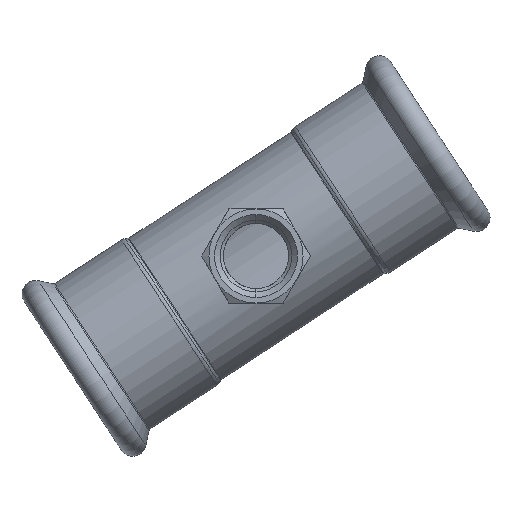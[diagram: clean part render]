
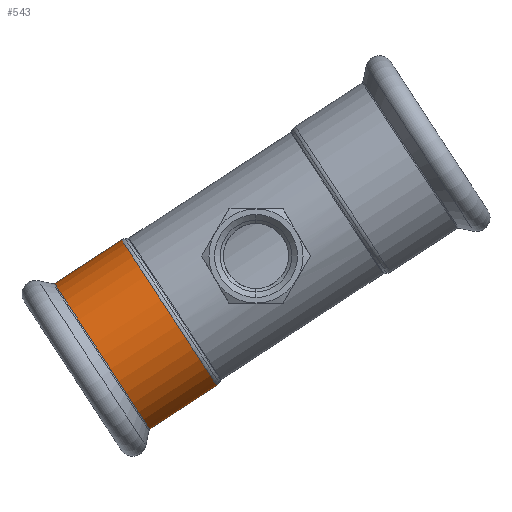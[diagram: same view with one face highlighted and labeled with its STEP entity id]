
A CAD part, front view. The second image highlights one B-rep face of the part: STEP entity #543.
In plain terms, the highlighted cylindrical face has radius 22.65 mm (diameter 45.3 mm), a partial arc.
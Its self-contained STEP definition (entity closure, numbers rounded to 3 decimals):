
#3 = CYLINDRICAL_SURFACE ( 'NONE', #1850, 22.65 ) ;
#135 = CIRCLE ( 'NONE', #3113, 22.65 ) ;
#166 = ORIENTED_EDGE ( 'NONE', *, *, #4051, .T. ) ;
#543 = ADVANCED_FACE ( 'NONE', ( #3183 ), #3, .T. ) ;
#560 = DIRECTION ( 'NONE',  ( 0., 0., 1. ) ) ;
#564 = EDGE_LOOP ( 'NONE', ( #776, #166, #3544, #1015 ) ) ;
#591 = DIRECTION ( 'NONE',  ( -1., 0., 0. ) ) ;
#658 = EDGE_CURVE ( 'NONE', #3838, #1533, #3341, .T. ) ;
#754 = DIRECTION ( 'NONE',  ( 0., 0., 1. ) ) ;
#776 = ORIENTED_EDGE ( 'NONE', *, *, #1469, .T. ) ;
#780 = VECTOR ( 'NONE', #865, 1000. ) ;
#826 = CARTESIAN_POINT ( 'NONE',  ( 27.146, 0., 22.65 ) ) ;
#865 = DIRECTION ( 'NONE',  ( -1., 0., 0. ) ) ;
#923 = CARTESIAN_POINT ( 'NONE',  ( 27., 0., -22.65 ) ) ;
#1015 = ORIENTED_EDGE ( 'NONE', *, *, #658, .F. ) ;
#1361 = DIRECTION ( 'NONE',  ( 0., 0., 1. ) ) ;
#1457 = DIRECTION ( 'NONE',  ( -1., 0., 0. ) ) ;
#1469 = EDGE_CURVE ( 'NONE', #3838, #4099, #2432, .T. ) ;
#1533 = VERTEX_POINT ( 'NONE', #3176 ) ;
#1669 = DIRECTION ( 'NONE',  ( -1., 0., 0. ) ) ;
#1671 = CARTESIAN_POINT ( 'NONE',  ( 47.843, 0., 0. ) ) ;
#1763 = LINE ( 'NONE', #3765, #780 ) ;
#1850 = AXIS2_PLACEMENT_3D ( 'NONE', #3279, #1669, #1361 ) ;
#1980 = VECTOR ( 'NONE', #1457, 1000. ) ;
#2259 = VERTEX_POINT ( 'NONE', #923 ) ;
#2432 = CIRCLE ( 'NONE', #2812, 22.65 ) ;
#2625 = DIRECTION ( 'NONE',  ( -1., 0., 0. ) ) ;
#2812 = AXIS2_PLACEMENT_3D ( 'NONE', #1671, #2625, #754 ) ;
#2819 = CARTESIAN_POINT ( 'NONE',  ( 47.843, 0., 22.65 ) ) ;
#3113 = AXIS2_PLACEMENT_3D ( 'NONE', #3430, #591, #560 ) ;
#3176 = CARTESIAN_POINT ( 'NONE',  ( 27., 0., 22.65 ) ) ;
#3183 = FACE_OUTER_BOUND ( 'NONE', #564, .T. ) ;
#3279 = CARTESIAN_POINT ( 'NONE',  ( 27.146, 0., 0. ) ) ;
#3341 = LINE ( 'NONE', #826, #1980 ) ;
#3415 = CARTESIAN_POINT ( 'NONE',  ( 47.843, 0., -22.65 ) ) ;
#3430 = CARTESIAN_POINT ( 'NONE',  ( 27., 0., 0. ) ) ;
#3544 = ORIENTED_EDGE ( 'NONE', *, *, #3993, .F. ) ;
#3765 = CARTESIAN_POINT ( 'NONE',  ( 27.146, 0., -22.65 ) ) ;
#3838 = VERTEX_POINT ( 'NONE', #2819 ) ;
#3993 = EDGE_CURVE ( 'NONE', #1533, #2259, #135, .T. ) ;
#4051 = EDGE_CURVE ( 'NONE', #4099, #2259, #1763, .T. ) ;
#4099 = VERTEX_POINT ( 'NONE', #3415 ) ;
